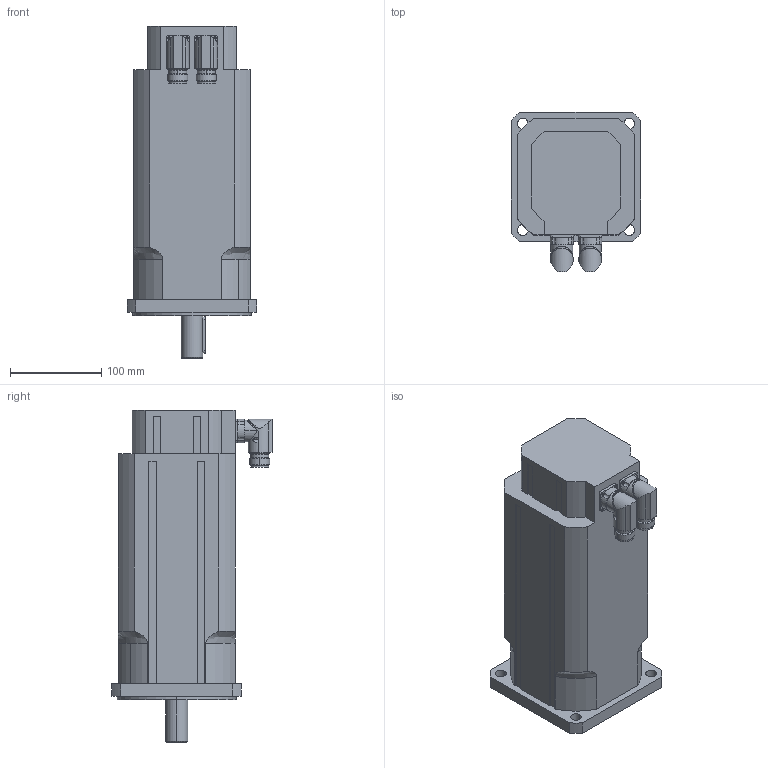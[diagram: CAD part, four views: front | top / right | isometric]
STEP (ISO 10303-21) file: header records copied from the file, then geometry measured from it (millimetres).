
FILE_DESCRIPTION(('STEP AP203'),'2;1');
FILE_NAME('MT5-2200_X.stp','2006-08-28T20:48:13',(''),(''),'2005.2.102','THINKDESIGN','');
FILE_SCHEMA(('CONFIG_CONTROL_DESIGN'));
Length unit declared in the file: millimetre
Bounding box: 142 x 175.5 x 364 mm (x, y, z)
Volume: 4766643.4 mm3; surface area: 216486.4 mm2
Topology: 3 solids, 3 shells, 255 faces, 679 edges, 439 vertices
Faces by surface type: cylinder 110, plane 107, bspline 38
Full cylindrical faces by diameter (mm): 20 x2
Entity records: 9316 total; most frequent: CARTESIAN_POINT 2863, ORIENTED_EDGE 1354, DIRECTION 1327, EDGE_CURVE 677, AXIS2_PLACEMENT_3D 493, VERTEX_POINT 439, VECTOR 341, LINE 341
